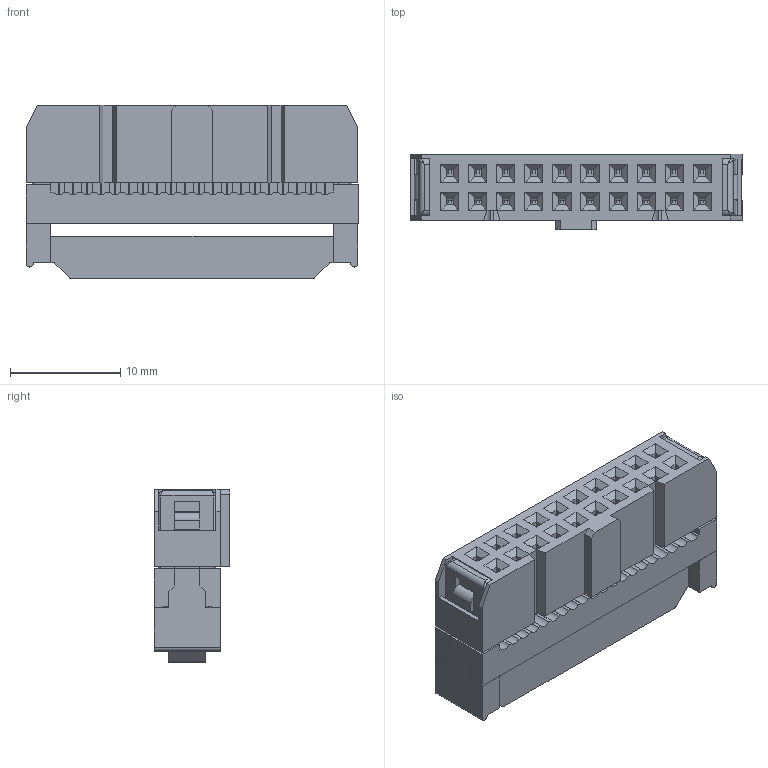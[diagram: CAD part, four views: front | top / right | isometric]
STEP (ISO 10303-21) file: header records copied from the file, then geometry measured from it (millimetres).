
FILE_DESCRIPTION(('FreeCAD Model'),'2;1');
FILE_NAME('C:/Users/Metaltex-99/Desktop/L-20.stp','2020-12-09T08:23:14', ('Engenharia Metaltex'),('Metaltex'),'Open CASCADE STEP processor 7.3' ,'FreeCAD','Unknown');
FILE_SCHEMA(('AUTOMOTIVE_DESIGN { 1 0 10303 214 1 1 1 1 }'));
Length unit declared in the file: millimetre
Products named in the file (4): L-20; 2; 3; 1
Assembly tree (3 placements, depth 2):
  L-20
    2
    3
    1
Bounding box: 30.08 x 6.86 x 15.7 mm (x, y, z)
Volume: 987.9 mm3; surface area: 3897.3 mm2
Topology: 2 solids, 23 shells, 1273 faces, 3501 edges, 2268 vertices
Faces by surface type: plane 966, cylinder 284, extrusion 11, bspline 4, sphere 4, torus 4
Entity records: 87375 total; most frequent: CARTESIAN_POINT 16448, DIRECTION 13309, VECTOR 9127, LINE 9116, ORIENTED_EDGE 6994, PCURVE 6994, DEFINITIONAL_REPRESENTATION 6994, EDGE_CURVE 3497
